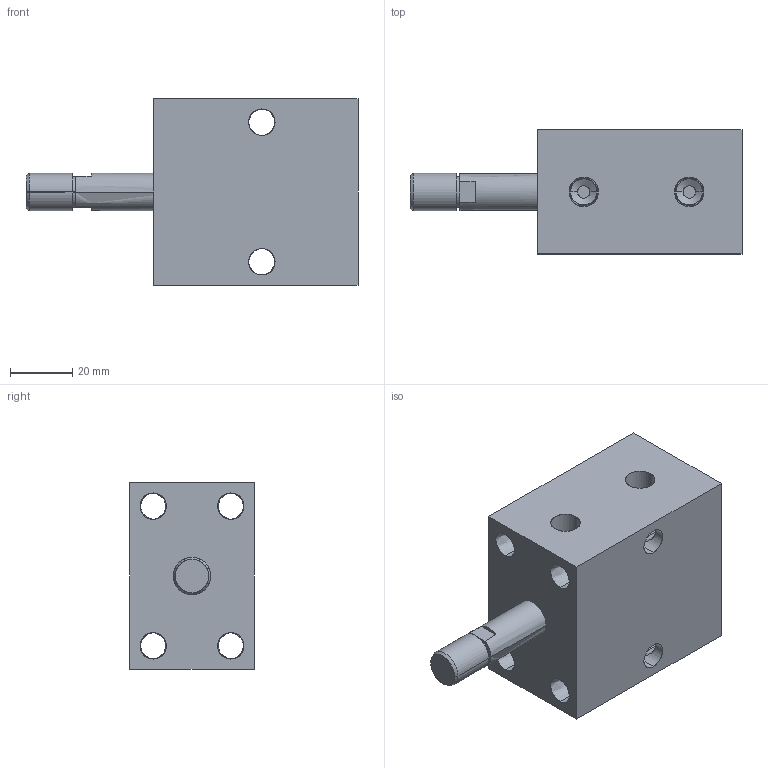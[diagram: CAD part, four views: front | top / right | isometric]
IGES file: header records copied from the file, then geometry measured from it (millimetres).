
Start section: SolidWorks IGES file using analytic representation for surfaces
Global section: file name: C:\Documents and Settings\rajib\Desktop\Rajib\BLOCK CYLINDER HYDRAULIC\0101-0106\0103.IGS; native system: SolidWorks 2007; preprocessor: SolidWorks 2007; author: rajib; date: 110121.093003; units: millimetre
Bounding box: 107 x 40 x 60 mm (x, y, z)
Surface area: 28328.1 mm2 (no closed solid volume)
Topology: 0 solids, 0 shells, 74 faces, 1690 edges, 1690 vertices
Faces by surface type: revolution 54, bspline 20
